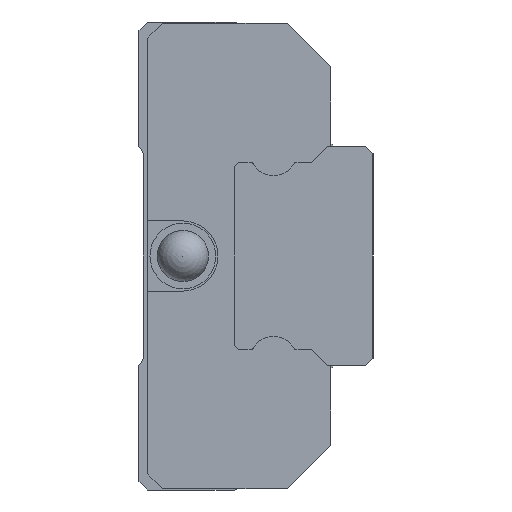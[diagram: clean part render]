
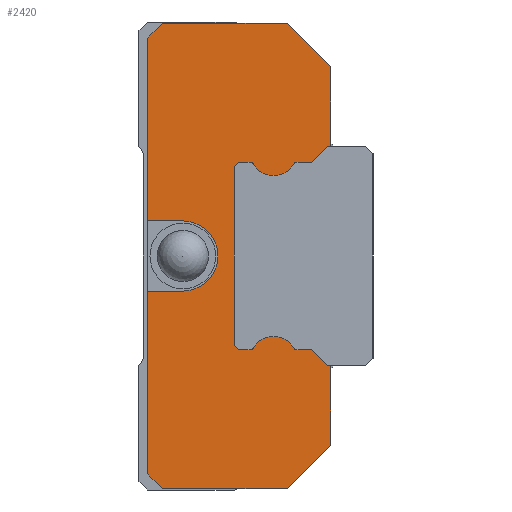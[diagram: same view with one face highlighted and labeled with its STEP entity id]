
A CAD part, left-side view. The second image highlights one B-rep face of the part: STEP entity #2420.
In plain terms, the highlighted planar face has unit normal (-1, 0, 0).
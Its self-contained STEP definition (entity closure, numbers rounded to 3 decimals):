
#98=CIRCLE('',#2620,2.4);
#99=CIRCLE('',#2621,0.15);
#100=CIRCLE('',#2622,1.6);
#101=CIRCLE('',#2623,0.15);
#102=CIRCLE('',#2624,0.15);
#103=CIRCLE('',#2625,1.6);
#104=CIRCLE('',#2626,0.15);
#284=ORIENTED_EDGE('',*,*,#892,.T.);
#285=ORIENTED_EDGE('',*,*,#893,.T.);
#286=ORIENTED_EDGE('',*,*,#894,.T.);
#287=ORIENTED_EDGE('',*,*,#890,.F.);
#288=ORIENTED_EDGE('',*,*,#895,.F.);
#289=ORIENTED_EDGE('',*,*,#896,.F.);
#290=ORIENTED_EDGE('',*,*,#897,.F.);
#291=ORIENTED_EDGE('',*,*,#898,.F.);
#292=ORIENTED_EDGE('',*,*,#899,.T.);
#293=ORIENTED_EDGE('',*,*,#900,.T.);
#294=ORIENTED_EDGE('',*,*,#901,.T.);
#295=ORIENTED_EDGE('',*,*,#902,.T.);
#296=ORIENTED_EDGE('',*,*,#903,.F.);
#297=ORIENTED_EDGE('',*,*,#904,.T.);
#298=ORIENTED_EDGE('',*,*,#905,.T.);
#299=ORIENTED_EDGE('',*,*,#906,.T.);
#300=ORIENTED_EDGE('',*,*,#907,.T.);
#301=ORIENTED_EDGE('',*,*,#908,.T.);
#302=ORIENTED_EDGE('',*,*,#909,.T.);
#303=ORIENTED_EDGE('',*,*,#910,.T.);
#304=ORIENTED_EDGE('',*,*,#911,.F.);
#305=ORIENTED_EDGE('',*,*,#912,.T.);
#306=ORIENTED_EDGE('',*,*,#913,.T.);
#307=ORIENTED_EDGE('',*,*,#914,.T.);
#308=ORIENTED_EDGE('',*,*,#915,.T.);
#309=ORIENTED_EDGE('',*,*,#916,.F.);
#310=ORIENTED_EDGE('',*,*,#917,.F.);
#311=ORIENTED_EDGE('',*,*,#918,.F.);
#312=ORIENTED_EDGE('',*,*,#919,.F.);
#313=ORIENTED_EDGE('',*,*,#886,.F.);
#886=EDGE_CURVE('',#1204,#1205,#1438,.T.);
#890=EDGE_CURVE('',#1208,#1209,#1442,.T.);
#892=EDGE_CURVE('',#1204,#1210,#1444,.T.);
#893=EDGE_CURVE('',#1210,#1211,#98,.T.);
#894=EDGE_CURVE('',#1211,#1209,#1445,.T.);
#895=EDGE_CURVE('',#1212,#1208,#1446,.T.);
#896=EDGE_CURVE('',#1213,#1212,#1447,.T.);
#897=EDGE_CURVE('',#1214,#1213,#1448,.T.);
#898=EDGE_CURVE('',#1215,#1214,#1449,.T.);
#899=EDGE_CURVE('',#1215,#1216,#1450,.T.);
#900=EDGE_CURVE('',#1216,#1217,#1451,.T.);
#901=EDGE_CURVE('',#1217,#1218,#1452,.T.);
#902=EDGE_CURVE('',#1218,#1219,#99,.T.);
#903=EDGE_CURVE('',#1220,#1219,#100,.T.);
#904=EDGE_CURVE('',#1220,#1221,#101,.T.);
#905=EDGE_CURVE('',#1221,#1222,#1453,.T.);
#906=EDGE_CURVE('',#1222,#1223,#1454,.T.);
#907=EDGE_CURVE('',#1223,#1224,#1455,.T.);
#908=EDGE_CURVE('',#1224,#1225,#1456,.T.);
#909=EDGE_CURVE('',#1225,#1226,#1457,.T.);
#910=EDGE_CURVE('',#1226,#1227,#102,.T.);
#911=EDGE_CURVE('',#1228,#1227,#103,.T.);
#912=EDGE_CURVE('',#1228,#1229,#104,.T.);
#913=EDGE_CURVE('',#1229,#1230,#1458,.T.);
#914=EDGE_CURVE('',#1230,#1231,#1459,.T.);
#915=EDGE_CURVE('',#1231,#1232,#1460,.T.);
#916=EDGE_CURVE('',#1233,#1232,#1461,.T.);
#917=EDGE_CURVE('',#1234,#1233,#1462,.T.);
#918=EDGE_CURVE('',#1235,#1234,#1463,.T.);
#919=EDGE_CURVE('',#1205,#1235,#1464,.T.);
#1204=VERTEX_POINT('',#3616);
#1205=VERTEX_POINT('',#3618);
#1208=VERTEX_POINT('',#3624);
#1209=VERTEX_POINT('',#3626);
#1210=VERTEX_POINT('',#3630);
#1211=VERTEX_POINT('',#3632);
#1212=VERTEX_POINT('',#3635);
#1213=VERTEX_POINT('',#3637);
#1214=VERTEX_POINT('',#3639);
#1215=VERTEX_POINT('',#3641);
#1216=VERTEX_POINT('',#3643);
#1217=VERTEX_POINT('',#3645);
#1218=VERTEX_POINT('',#3647);
#1219=VERTEX_POINT('',#3649);
#1220=VERTEX_POINT('',#3651);
#1221=VERTEX_POINT('',#3653);
#1222=VERTEX_POINT('',#3655);
#1223=VERTEX_POINT('',#3657);
#1224=VERTEX_POINT('',#3659);
#1225=VERTEX_POINT('',#3661);
#1226=VERTEX_POINT('',#3663);
#1227=VERTEX_POINT('',#3665);
#1228=VERTEX_POINT('',#3667);
#1229=VERTEX_POINT('',#3669);
#1230=VERTEX_POINT('',#3671);
#1231=VERTEX_POINT('',#3673);
#1232=VERTEX_POINT('',#3675);
#1233=VERTEX_POINT('',#3677);
#1234=VERTEX_POINT('',#3679);
#1235=VERTEX_POINT('',#3681);
#1438=LINE('',#3617,#1714);
#1442=LINE('',#3625,#1718);
#1444=LINE('',#3629,#1720);
#1445=LINE('',#3633,#1721);
#1446=LINE('',#3634,#1722);
#1447=LINE('',#3636,#1723);
#1448=LINE('',#3638,#1724);
#1449=LINE('',#3640,#1725);
#1450=LINE('',#3642,#1726);
#1451=LINE('',#3644,#1727);
#1452=LINE('',#3646,#1728);
#1453=LINE('',#3654,#1729);
#1454=LINE('',#3656,#1730);
#1455=LINE('',#3658,#1731);
#1456=LINE('',#3660,#1732);
#1457=LINE('',#3662,#1733);
#1458=LINE('',#3670,#1734);
#1459=LINE('',#3672,#1735);
#1460=LINE('',#3674,#1736);
#1461=LINE('',#3676,#1737);
#1462=LINE('',#3678,#1738);
#1463=LINE('',#3680,#1739);
#1464=LINE('',#3682,#1740);
#1714=VECTOR('',#2927,1000.);
#1718=VECTOR('',#2931,1000.);
#1720=VECTOR('',#2935,1000.);
#1721=VECTOR('',#2938,1000.);
#1722=VECTOR('',#2939,1000.);
#1723=VECTOR('',#2940,1000.);
#1724=VECTOR('',#2941,1000.);
#1725=VECTOR('',#2942,1000.);
#1726=VECTOR('',#2943,1000.);
#1727=VECTOR('',#2944,1000.);
#1728=VECTOR('',#2945,1000.);
#1729=VECTOR('',#2952,1000.);
#1730=VECTOR('',#2953,1000.);
#1731=VECTOR('',#2954,1000.);
#1732=VECTOR('',#2955,1000.);
#1733=VECTOR('',#2956,1000.);
#1734=VECTOR('',#2963,1000.);
#1735=VECTOR('',#2964,1000.);
#1736=VECTOR('',#2965,1000.);
#1737=VECTOR('',#2966,1000.);
#1738=VECTOR('',#2967,1000.);
#1739=VECTOR('',#2968,1000.);
#1740=VECTOR('',#2969,1000.);
#1979=EDGE_LOOP('',(#284,#285,#286,#287,#288,#289,#290,#291,#292,#293,#294,
#295,#296,#297,#298,#299,#300,#301,#302,#303,#304,#305,#306,#307,#308,#309,
#310,#311,#312,#313));
#2151=FACE_BOUND('',#1979,.T.);
#2307=PLANE('',#2619);
#2420=ADVANCED_FACE('',(#2151),#2307,.F.);
#2619=AXIS2_PLACEMENT_3D('',#3628,#2933,#2934);
#2620=AXIS2_PLACEMENT_3D('',#3631,#2936,#2937);
#2621=AXIS2_PLACEMENT_3D('',#3648,#2946,#2947);
#2622=AXIS2_PLACEMENT_3D('',#3650,#2948,#2949);
#2623=AXIS2_PLACEMENT_3D('',#3652,#2950,#2951);
#2624=AXIS2_PLACEMENT_3D('',#3664,#2957,#2958);
#2625=AXIS2_PLACEMENT_3D('',#3666,#2959,#2960);
#2626=AXIS2_PLACEMENT_3D('',#3668,#2961,#2962);
#2927=DIRECTION('',(0.,0.,1.));
#2931=DIRECTION('',(0.,0.,1.));
#2933=DIRECTION('',(1.,0.,0.));
#2934=DIRECTION('',(0.,0.,-1.));
#2935=DIRECTION('',(0.,-1.,0.));
#2936=DIRECTION('',(1.,0.,0.));
#2937=DIRECTION('',(0.,0.,-1.));
#2938=DIRECTION('',(0.,1.,0.));
#2939=DIRECTION('',(0.,0.707,0.707));
#2940=DIRECTION('',(0.,1.,0.));
#2941=DIRECTION('',(0.,0.707,-0.707));
#2942=DIRECTION('',(0.,0.,-1.));
#2943=DIRECTION('',(0.,1.,0.));
#2944=DIRECTION('',(0.,0.707,0.707));
#2945=DIRECTION('',(0.,1.,0.));
#2946=DIRECTION('',(1.,0.,0.));
#2947=DIRECTION('',(0.,0.,-1.));
#2948=DIRECTION('',(1.,0.,0.));
#2949=DIRECTION('',(0.,0.,-1.));
#2950=DIRECTION('',(1.,0.,0.));
#2951=DIRECTION('',(0.,0.,-1.));
#2952=DIRECTION('',(0.,1.,0.));
#2953=DIRECTION('',(0.,0.707,0.707));
#2954=DIRECTION('',(0.,0.,1.));
#2955=DIRECTION('',(0.,-0.707,0.707));
#2956=DIRECTION('',(0.,-1.,0.));
#2957=DIRECTION('',(1.,0.,0.));
#2958=DIRECTION('',(0.,0.,-1.));
#2959=DIRECTION('',(1.,0.,0.));
#2960=DIRECTION('',(0.,0.,-1.));
#2961=DIRECTION('',(1.,0.,0.));
#2962=DIRECTION('',(0.,0.,-1.));
#2963=DIRECTION('',(0.,-1.,0.));
#2964=DIRECTION('',(0.,-0.707,0.707));
#2965=DIRECTION('',(0.,-1.,0.));
#2966=DIRECTION('',(0.,0.,-1.));
#2967=DIRECTION('',(0.,-0.707,-0.707));
#2968=DIRECTION('',(0.,-1.,0.));
#2969=DIRECTION('',(0.,-0.707,0.707));
#3616=CARTESIAN_POINT('',(-30.4,12.7,2.4));
#3617=CARTESIAN_POINT('',(-30.4,12.7,-14.9));
#3618=CARTESIAN_POINT('',(-30.4,12.7,14.9));
#3624=CARTESIAN_POINT('',(-30.4,12.7,-14.9));
#3625=CARTESIAN_POINT('',(-30.4,12.7,-14.9));
#3626=CARTESIAN_POINT('',(-30.4,12.7,-2.4));
#3628=CARTESIAN_POINT('',(-30.4,0.,0.));
#3629=CARTESIAN_POINT('',(-30.4,13.3,2.4));
#3630=CARTESIAN_POINT('',(-30.4,10.3,2.4));
#3631=CARTESIAN_POINT('',(-30.4,10.3,0.));
#3632=CARTESIAN_POINT('',(-30.4,10.3,-2.4));
#3633=CARTESIAN_POINT('',(-30.4,10.3,-2.4));
#3634=CARTESIAN_POINT('',(-30.4,11.7,-15.9));
#3635=CARTESIAN_POINT('',(-30.4,11.7,-15.9));
#3636=CARTESIAN_POINT('',(-30.4,3.16,-15.9));
#3637=CARTESIAN_POINT('',(-30.4,3.16,-15.9));
#3638=CARTESIAN_POINT('',(-30.4,0.2,-12.94));
#3639=CARTESIAN_POINT('',(-30.4,0.2,-12.94));
#3640=CARTESIAN_POINT('',(-30.4,0.2,12.94));
#3641=CARTESIAN_POINT('',(-30.4,0.2,-7.5));
#3642=CARTESIAN_POINT('',(-30.4,-2.2,-7.5));
#3643=CARTESIAN_POINT('',(-30.4,0.4,-7.5));
#3644=CARTESIAN_POINT('',(-30.4,0.4,-7.5));
#3645=CARTESIAN_POINT('',(-30.4,1.5,-6.4));
#3646=CARTESIAN_POINT('',(-30.4,1.5,-6.4));
#3647=CARTESIAN_POINT('',(-30.4,2.57,-6.4));
#3648=CARTESIAN_POINT('',(-30.4,2.57,-6.25));
#3649=CARTESIAN_POINT('',(-30.4,2.701,-6.323));
#3650=CARTESIAN_POINT('',(-30.4,4.1,-7.1));
#3651=CARTESIAN_POINT('',(-30.4,5.499,-6.323));
#3652=CARTESIAN_POINT('',(-30.4,5.63,-6.25));
#3653=CARTESIAN_POINT('',(-30.4,5.63,-6.4));
#3654=CARTESIAN_POINT('',(-30.4,5.63,-6.4));
#3655=CARTESIAN_POINT('',(-30.4,6.5,-6.4));
#3656=CARTESIAN_POINT('',(-30.4,6.5,-6.4));
#3657=CARTESIAN_POINT('',(-30.4,6.8,-6.1));
#3658=CARTESIAN_POINT('',(-30.4,6.8,-6.1));
#3659=CARTESIAN_POINT('',(-30.4,6.8,6.1));
#3660=CARTESIAN_POINT('',(-30.4,6.8,6.1));
#3661=CARTESIAN_POINT('',(-30.4,6.5,6.4));
#3662=CARTESIAN_POINT('',(-30.4,6.5,6.4));
#3663=CARTESIAN_POINT('',(-30.4,5.63,6.4));
#3664=CARTESIAN_POINT('',(-30.4,5.63,6.25));
#3665=CARTESIAN_POINT('',(-30.4,5.499,6.323));
#3666=CARTESIAN_POINT('',(-30.4,4.1,7.1));
#3667=CARTESIAN_POINT('',(-30.4,2.701,6.323));
#3668=CARTESIAN_POINT('',(-30.4,2.57,6.25));
#3669=CARTESIAN_POINT('',(-30.4,2.57,6.4));
#3670=CARTESIAN_POINT('',(-30.4,2.57,6.4));
#3671=CARTESIAN_POINT('',(-30.4,1.5,6.4));
#3672=CARTESIAN_POINT('',(-30.4,1.5,6.4));
#3673=CARTESIAN_POINT('',(-30.4,0.4,7.5));
#3674=CARTESIAN_POINT('',(-30.4,0.4,7.5));
#3675=CARTESIAN_POINT('',(-30.4,0.2,7.5));
#3676=CARTESIAN_POINT('',(-30.4,0.2,12.94));
#3677=CARTESIAN_POINT('',(-30.4,0.2,12.94));
#3678=CARTESIAN_POINT('',(-30.4,3.16,15.9));
#3679=CARTESIAN_POINT('',(-30.4,3.16,15.9));
#3680=CARTESIAN_POINT('',(-30.4,11.7,15.9));
#3681=CARTESIAN_POINT('',(-30.4,11.7,15.9));
#3682=CARTESIAN_POINT('',(-30.4,12.7,14.9));
